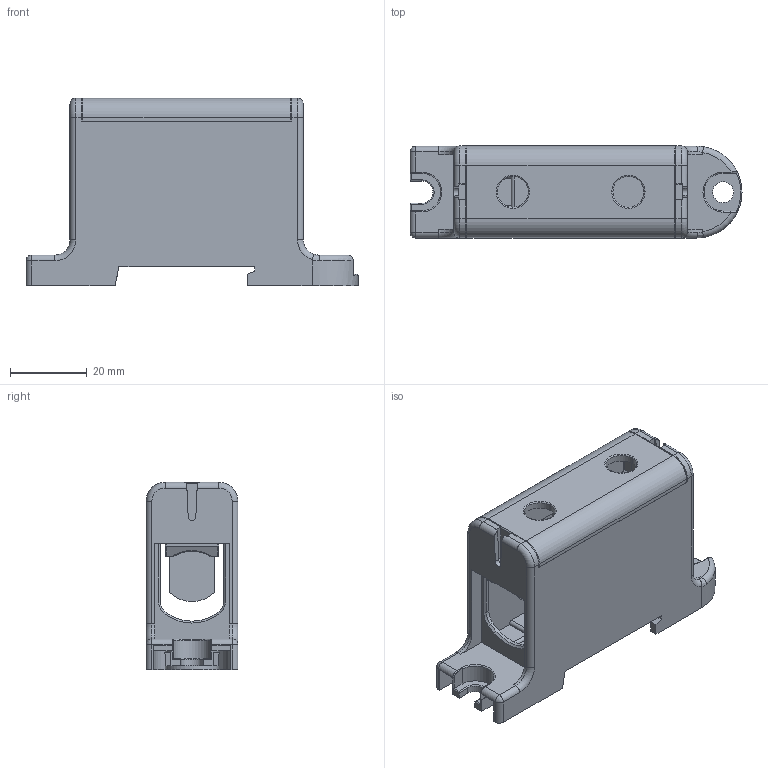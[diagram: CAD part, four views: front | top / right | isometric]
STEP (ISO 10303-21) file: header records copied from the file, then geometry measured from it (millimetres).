
FILE_DESCRIPTION((''),'2;1');
FILE_NAME('KE62_ASM','2016-06-01T',('Administrator'),(''),'PRO/ENGINEER BY PARAMETRIC TECHNOLOGY CORPORATION, 2009360','PRO/ENGINEER BY PARAMETRIC TECHNOLOGY CORPORATION, 2009360','');
FILE_SCHEMA(('CONFIG_CONTROL_DESIGN'));
Length unit declared in the file: millimetre
Products named in the file (3): KE62; KE62-GAI; KE62_ASM
Assembly tree (2 placements, depth 2):
  KE62_ASM
    KE62
    KE62-GAI
Bounding box: 86.8 x 24 x 49 mm (x, y, z)
Volume: 18617.5 mm3; surface area: 24868.2 mm2
Topology: 2 solids, 2 shells, 333 faces, 902 edges, 569 vertices
Faces by surface type: plane 190, cylinder 96, torus 24, sphere 9, bspline 8, cone 6
Entity records: 10892 total; most frequent: CARTESIAN_POINT 2365, ORIENTED_EDGE 1804, DIRECTION 1742, EDGE_CURVE 902, VECTOR 642, LINE 642, VERTEX_POINT 569, AXIS2_PLACEMENT_3D 550
